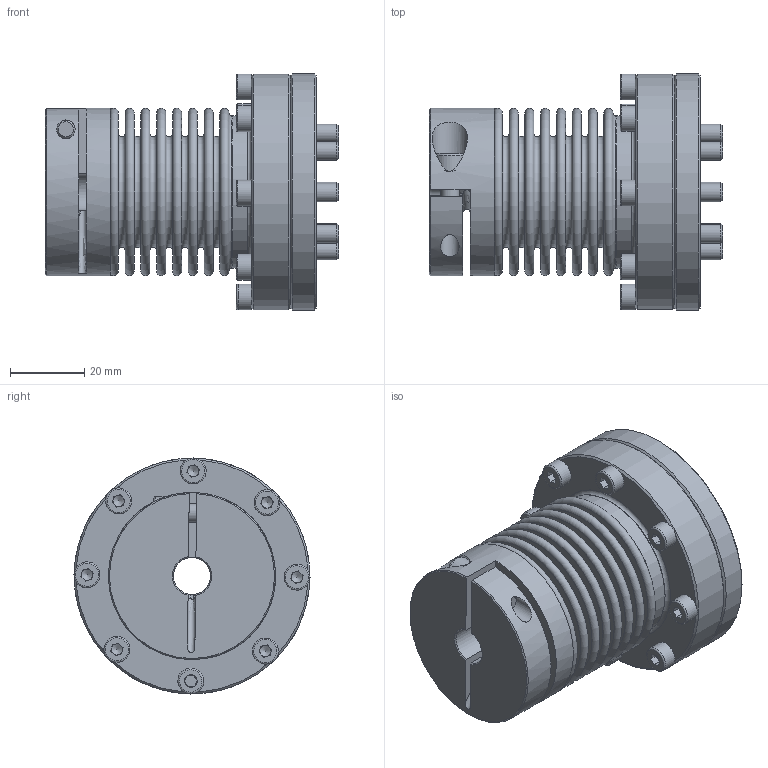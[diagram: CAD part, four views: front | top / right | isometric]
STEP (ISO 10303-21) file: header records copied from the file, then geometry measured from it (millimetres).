
FILE_DESCRIPTION( ( 'Unknown' ), '1' );
FILE_NAME( 'C:/Users/skarpstein/Desktop/KB4F/KB4F-18-71.stp', 'Unknown', ( 'Unknown' ), ( 'Unknown' ), 'PSStep 16.0.42', 'Unknown', ' ' );
FILE_SCHEMA( ( 'AUTOMOTIVE_DESIGN { 1 0 10303 214 1 1 1 1 }' ) );
Length unit declared in the file: millimetre
Products named in the file (9): Assem1; KN18C_Standard; Socket Head Cap Screw_DIN_DIN 912 M5 x 16 --- 16N_3; ISO 4017 - M5 x 16-N; Socket Head Cap Screw_DIN_DIN 912 M4 x 16 --- 16N; ISO EN DIN 4762 M4x16; Kupplungsflansch F18; Flansch A31-5-F18; BL18_Standard_1
Assembly tree (21 placements, depth 2):
  Assem1
    KN18C_Standard
    Socket Head Cap Screw_DIN_DIN 912 M5 x 16 --- 16N_3
    ISO 4017 - M5 x 16-N  x8
    Socket Head Cap Screw_DIN_DIN 912 M4 x 16 --- 16N  x7
    ISO EN DIN 4762 M4x16
    Kupplungsflansch F18
    Flansch A31-5-F18
    BL18_Standard_1
Bounding box: 78.88 x 63.5 x 63.5 mm (x, y, z)
Volume: 78509.7 mm3; surface area: 68005.3 mm2
Topology: 21 solids, 21 shells, 537 faces, 1135 edges, 695 vertices
Faces by surface type: plane 302, cone 93, cylinder 78, torus 63, bspline 1
Full cylindrical faces by diameter (mm): 3.242 x8, 3.5 x1, 4 x9, 4.5 x8, 5 x10, 5.3 x1, 5.5 x8, 7 x8, 8 x8, 8.5 x1, 10 x1, 20 x1, 25 x1, 40 x1, 40.4 x2, 40.8 x1, 41 x2, 44 x2, 45 x1, 63.5 x2
Entity records: 8559 total; most frequent: CARTESIAN_POINT 1719, DIRECTION 1058, ORIENTED_EDGE 708, AXIS2_PLACEMENT_3D 484, EDGE_LOOP 446, EDGE_CURVE 354, FACE_OUTER_BOUND 327, VERTEX_POINT 302
